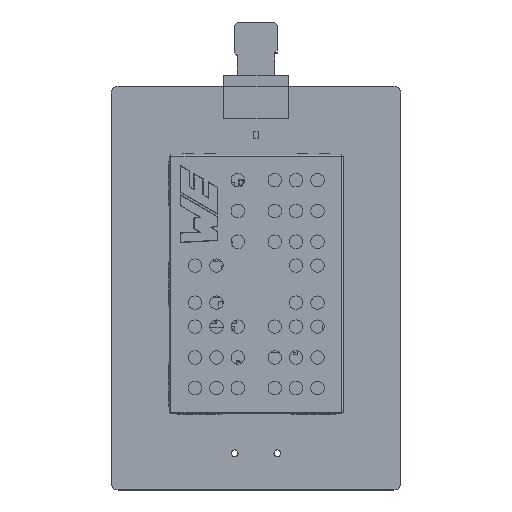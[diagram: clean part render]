
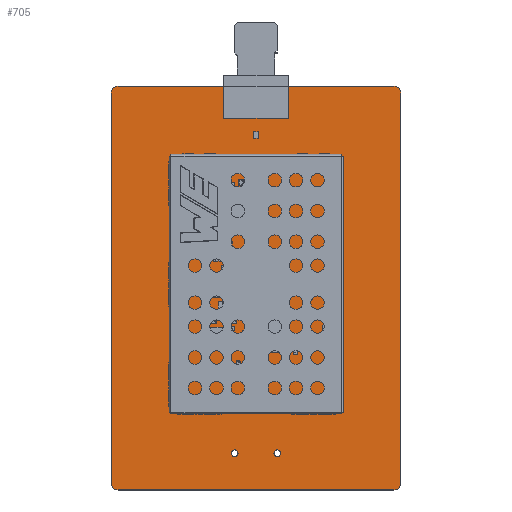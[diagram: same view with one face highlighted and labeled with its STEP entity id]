
A CAD part, top view. The second image highlights one B-rep face of the part: STEP entity #705.
In plain terms, the highlighted planar face has unit normal (0, 0, 1).
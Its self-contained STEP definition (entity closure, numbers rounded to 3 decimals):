
#368 = VERTEX_POINT('',#369);
#369 = CARTESIAN_POINT('',(0.,1.,1.56));
#375 = EDGE_CURVE('',#368,#376,#378,.T.);
#376 = VERTEX_POINT('',#377);
#377 = CARTESIAN_POINT('',(1.,0.,1.56));
#378 = CIRCLE('',#379,1.);
#379 = AXIS2_PLACEMENT_3D('',#380,#381,#382);
#380 = CARTESIAN_POINT('',(1.,1.,1.56));
#381 = DIRECTION('',(0.,0.,1.));
#382 = DIRECTION('',(-1.,0.,0.));
#408 = EDGE_CURVE('',#376,#409,#411,.T.);
#409 = VERTEX_POINT('',#410);
#410 = CARTESIAN_POINT('',(42.,0.,1.56));
#411 = LINE('',#412,#413);
#412 = CARTESIAN_POINT('',(1.,0.,1.56));
#413 = VECTOR('',#414,1.);
#414 = DIRECTION('',(1.,0.,0.));
#439 = EDGE_CURVE('',#409,#440,#442,.T.);
#440 = VERTEX_POINT('',#441);
#441 = CARTESIAN_POINT('',(43.,1.,1.56));
#442 = CIRCLE('',#443,1.);
#443 = AXIS2_PLACEMENT_3D('',#444,#445,#446);
#444 = CARTESIAN_POINT('',(42.,1.,1.56));
#445 = DIRECTION('',(0.,0.,1.));
#446 = DIRECTION('',(0.,-1.,0.));
#472 = EDGE_CURVE('',#440,#473,#475,.T.);
#473 = VERTEX_POINT('',#474);
#474 = CARTESIAN_POINT('',(43.,59.,1.56));
#475 = LINE('',#476,#477);
#476 = CARTESIAN_POINT('',(43.,1.,1.56));
#477 = VECTOR('',#478,1.);
#478 = DIRECTION('',(0.,1.,0.));
#503 = EDGE_CURVE('',#473,#504,#506,.T.);
#504 = VERTEX_POINT('',#505);
#505 = CARTESIAN_POINT('',(42.,60.,1.56));
#506 = CIRCLE('',#507,1.);
#507 = AXIS2_PLACEMENT_3D('',#508,#509,#510);
#508 = CARTESIAN_POINT('',(42.,59.,1.56));
#509 = DIRECTION('',(0.,0.,1.));
#510 = DIRECTION('',(1.,0.,-0.));
#536 = EDGE_CURVE('',#504,#537,#539,.T.);
#537 = VERTEX_POINT('',#538);
#538 = CARTESIAN_POINT('',(1.,60.,1.56));
#539 = LINE('',#540,#541);
#540 = CARTESIAN_POINT('',(42.,60.,1.56));
#541 = VECTOR('',#542,1.);
#542 = DIRECTION('',(-1.,0.,0.));
#567 = EDGE_CURVE('',#537,#568,#570,.T.);
#568 = VERTEX_POINT('',#569);
#569 = CARTESIAN_POINT('',(0.,59.,1.56));
#570 = CIRCLE('',#571,1.);
#571 = AXIS2_PLACEMENT_3D('',#572,#573,#574);
#572 = CARTESIAN_POINT('',(1.,59.,1.56));
#573 = DIRECTION('',(0.,0.,1.));
#574 = DIRECTION('',(0.,1.,0.));
#600 = EDGE_CURVE('',#568,#368,#601,.T.);
#601 = LINE('',#602,#603);
#602 = CARTESIAN_POINT('',(0.,59.,1.56));
#603 = VECTOR('',#604,1.);
#604 = DIRECTION('',(0.,-1.,0.));
#624 = VERTEX_POINT('',#625);
#625 = CARTESIAN_POINT('',(18.825,5.465,1.56));
#631 = EDGE_CURVE('',#624,#624,#632,.T.);
#632 = CIRCLE('',#633,0.5);
#633 = AXIS2_PLACEMENT_3D('',#634,#635,#636);
#634 = CARTESIAN_POINT('',(18.325,5.465,1.56));
#635 = DIRECTION('',(0.,0.,1.));
#636 = DIRECTION('',(1.,0.,-0.));
#657 = VERTEX_POINT('',#658);
#658 = CARTESIAN_POINT('',(25.175,5.465,1.56));
#664 = EDGE_CURVE('',#657,#657,#665,.T.);
#665 = CIRCLE('',#666,0.5);
#666 = AXIS2_PLACEMENT_3D('',#667,#668,#669);
#667 = CARTESIAN_POINT('',(24.675,5.465,1.56));
#668 = DIRECTION('',(0.,0.,1.));
#669 = DIRECTION('',(1.,0.,-0.));
#705 = ADVANCED_FACE('',(#706,#716,#719),#722,.T.);
#706 = FACE_BOUND('',#707,.T.);
#707 = EDGE_LOOP('',(#708,#709,#710,#711,#712,#713,#714,#715));
#708 = ORIENTED_EDGE('',*,*,#375,.T.);
#709 = ORIENTED_EDGE('',*,*,#408,.T.);
#710 = ORIENTED_EDGE('',*,*,#439,.T.);
#711 = ORIENTED_EDGE('',*,*,#472,.T.);
#712 = ORIENTED_EDGE('',*,*,#503,.T.);
#713 = ORIENTED_EDGE('',*,*,#536,.T.);
#714 = ORIENTED_EDGE('',*,*,#567,.T.);
#715 = ORIENTED_EDGE('',*,*,#600,.T.);
#716 = FACE_BOUND('',#717,.T.);
#717 = EDGE_LOOP('',(#718));
#718 = ORIENTED_EDGE('',*,*,#631,.F.);
#719 = FACE_BOUND('',#720,.T.);
#720 = EDGE_LOOP('',(#721));
#721 = ORIENTED_EDGE('',*,*,#664,.F.);
#722 = PLANE('',#723);
#723 = AXIS2_PLACEMENT_3D('',#724,#725,#726);
#724 = CARTESIAN_POINT('',(21.5,30.,1.56));
#725 = DIRECTION('',(0.,0.,1.));
#726 = DIRECTION('',(1.,0.,-0.));
